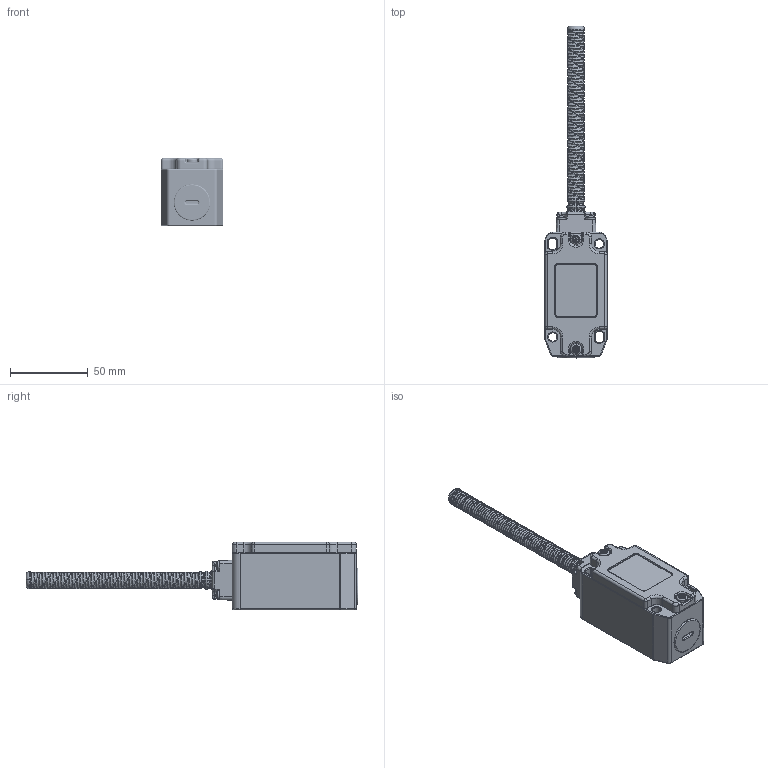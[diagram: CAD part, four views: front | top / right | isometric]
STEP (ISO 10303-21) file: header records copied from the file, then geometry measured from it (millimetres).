
FILE_DESCRIPTION (( 'STEP AP203' ), '1' );
FILE_NAME ('174-HLM (Spring Lever) step format.STEP', '2014-07-07T10:57:22', ( '' ), ( '' ), 'SwSTEP 2.0', 'SolidWorks 2013', '' );
FILE_SCHEMA (( 'CONFIG_CONTROL_DESIGN' ));
Products named in the file (1): 174-HLM (Spring Lever) step format
Bounding box: 40 x 214 x 43.5 mm (x, y, z)
Volume: 60972.7 mm3; surface area: 52929 mm2
Topology: 13 solids, 13 shells, 2292 faces, 5147 edges, 2898 vertices
Faces by surface type: cylinder 660, plane 532, cone 486, torus 396, bspline 147, sphere 71
Entity records: 76812 total; most frequent: CARTESIAN_POINT 26049, DIRECTION 11400, ORIENTED_EDGE 10162, EDGE_CURVE 5081, AXIS2_PLACEMENT_3D 4583, VERTEX_POINT 2898, CIRCLE 2437, EDGE_LOOP 2403
